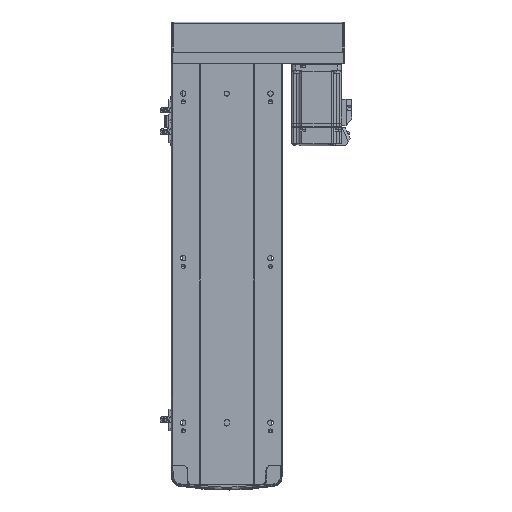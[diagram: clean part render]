
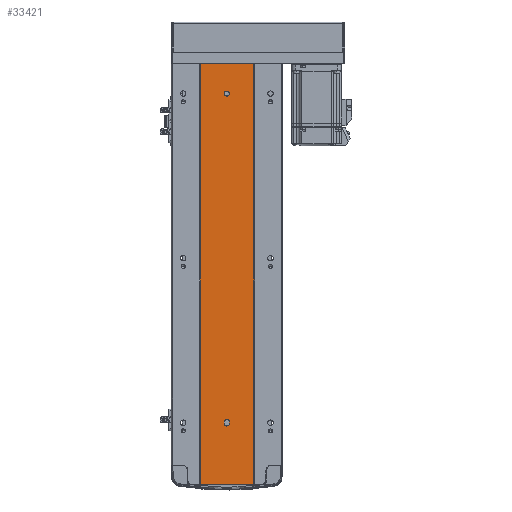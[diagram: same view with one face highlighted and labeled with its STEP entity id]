
A CAD part, top view. The second image highlights one B-rep face of the part: STEP entity #33421.
In plain terms, the highlighted planar face has unit normal (0, 0, 1).
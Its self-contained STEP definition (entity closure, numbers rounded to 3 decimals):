
#897 = DIRECTION ( 'NONE',  ( 1., 0., 0. ) ) ;
#1152 = AXIS2_PLACEMENT_3D ( 'NONE', #16984, #40257, #2928 ) ;
#1212 = DIRECTION ( 'NONE',  ( 0., -1., 0. ) ) ;
#1236 = VERTEX_POINT ( 'NONE', #11680 ) ;
#1993 = CARTESIAN_POINT ( 'NONE',  ( -32.5, -511.5, 35.45 ) ) ;
#2928 = DIRECTION ( 'NONE',  ( 1., 0., 0. ) ) ;
#3934 = VECTOR ( 'NONE', #1212, 1000. ) ;
#5575 = CARTESIAN_POINT ( 'NONE',  ( 3., -435.5, 35.45 ) ) ;
#6341 = VERTEX_POINT ( 'NONE', #40530 ) ;
#7977 = CARTESIAN_POINT ( 'NONE',  ( -3., -437.5, 35.45 ) ) ;
#9313 = VERTEX_POINT ( 'NONE', #31177 ) ;
#11680 = CARTESIAN_POINT ( 'NONE',  ( -3., -435.5, 35.45 ) ) ;
#11780 = ORIENTED_EDGE ( 'NONE', *, *, #59537, .F. ) ;
#12316 = VECTOR ( 'NONE', #12868, 1000. ) ;
#12447 = CARTESIAN_POINT ( 'NONE',  ( -32.5, -511.5, 35.45 ) ) ;
#12475 = VECTOR ( 'NONE', #15237, 1000. ) ;
#12763 = EDGE_LOOP ( 'NONE', ( #14627, #14966, #53370, #45395 ) ) ;
#12868 = DIRECTION ( 'NONE',  ( 1., 0., 0. ) ) ;
#13033 = AXIS2_PLACEMENT_3D ( 'NONE', #17348, #59692, #41385 ) ;
#14627 = ORIENTED_EDGE ( 'NONE', *, *, #35299, .F. ) ;
#14966 = ORIENTED_EDGE ( 'NONE', *, *, #48598, .F. ) ;
#15222 = EDGE_LOOP ( 'NONE', ( #47165, #30248, #34901, #35855 ) ) ;
#15237 = DIRECTION ( 'NONE',  ( 0., 1., 0. ) ) ;
#15944 = CARTESIAN_POINT ( 'NONE',  ( 3., -437.5, 35.45 ) ) ;
#16255 = PLANE ( 'NONE',  #33366 ) ;
#16984 = CARTESIAN_POINT ( 'NONE',  ( 0., -435.5, 35.45 ) ) ;
#17348 = CARTESIAN_POINT ( 'NONE',  ( 0., -36.5, 35.45 ) ) ;
#17753 = EDGE_CURVE ( 'NONE', #56163, #38258, #41831, .T. ) ;
#19800 = AXIS2_PLACEMENT_3D ( 'NONE', #29526, #43667, #38816 ) ;
#19852 = DIRECTION ( 'NONE',  ( 0., 1., 0. ) ) ;
#20599 = VECTOR ( 'NONE', #49740, 1000. ) ;
#23938 = VERTEX_POINT ( 'NONE', #33134 ) ;
#24535 = CARTESIAN_POINT ( 'NONE',  ( -32.5, -511.5, 35.45 ) ) ;
#24674 = CARTESIAN_POINT ( 'NONE',  ( -32.5, 0., 35.45 ) ) ;
#24789 = CARTESIAN_POINT ( 'NONE',  ( -3., -435.5, 35.45 ) ) ;
#25847 = LINE ( 'NONE', #5575, #55286 ) ;
#26450 = CARTESIAN_POINT ( 'NONE',  ( -3., -36.5, 35.45 ) ) ;
#28805 = EDGE_CURVE ( 'NONE', #1236, #56163, #29056, .T. ) ;
#29056 = LINE ( 'NONE', #24789, #3934 ) ;
#29526 = CARTESIAN_POINT ( 'NONE',  ( 0., -437.5, 35.45 ) ) ;
#30248 = ORIENTED_EDGE ( 'NONE', *, *, #35831, .F. ) ;
#31081 = CARTESIAN_POINT ( 'NONE',  ( 3., -36.5, 35.45 ) ) ;
#31177 = CARTESIAN_POINT ( 'NONE',  ( -32.5, 0., 35.45 ) ) ;
#32471 = CIRCLE ( 'NONE', #13033, 3. ) ;
#33134 = CARTESIAN_POINT ( 'NONE',  ( 3., -435.5, 35.45 ) ) ;
#33366 = AXIS2_PLACEMENT_3D ( 'NONE', #1993, #34825, #58218 ) ;
#33421 = ADVANCED_FACE ( 'NONE', ( #49607, #51132, #37973 ), #16255, .T. ) ;
#33686 = CARTESIAN_POINT ( 'NONE',  ( 0., -36.5, 35.45 ) ) ;
#34825 = DIRECTION ( 'NONE',  ( 0., 0., 1. ) ) ;
#34901 = ORIENTED_EDGE ( 'NONE', *, *, #17753, .F. ) ;
#35299 = EDGE_CURVE ( 'NONE', #9313, #45112, #54573, .T. ) ;
#35831 = EDGE_CURVE ( 'NONE', #38258, #23938, #25847, .T. ) ;
#35855 = ORIENTED_EDGE ( 'NONE', *, *, #28805, .F. ) ;
#37973 = FACE_OUTER_BOUND ( 'NONE', #12763, .T. ) ;
#38258 = VERTEX_POINT ( 'NONE', #15944 ) ;
#38397 = DIRECTION ( 'NONE',  ( 1., 0., 0. ) ) ;
#38816 = DIRECTION ( 'NONE',  ( 1., 0., 0. ) ) ;
#38825 = VERTEX_POINT ( 'NONE', #26450 ) ;
#39194 = EDGE_LOOP ( 'NONE', ( #11780, #40992 ) ) ;
#39210 = CARTESIAN_POINT ( 'NONE',  ( 32.5, 0., 35.45 ) ) ;
#39304 = EDGE_CURVE ( 'NONE', #23938, #1236, #55012, .T. ) ;
#40257 = DIRECTION ( 'NONE',  ( 0., 0., 1. ) ) ;
#40530 = CARTESIAN_POINT ( 'NONE',  ( -32.5, -511.5, 35.45 ) ) ;
#40992 = ORIENTED_EDGE ( 'NONE', *, *, #47002, .F. ) ;
#41385 = DIRECTION ( 'NONE',  ( 1., 0., 0. ) ) ;
#41831 = CIRCLE ( 'NONE', #19800, 3. ) ;
#42680 = LINE ( 'NONE', #24535, #12475 ) ;
#43076 = DIRECTION ( 'NONE',  ( 0., 0., 1. ) ) ;
#43667 = DIRECTION ( 'NONE',  ( 0., 0., 1. ) ) ;
#45112 = VERTEX_POINT ( 'NONE', #39210 ) ;
#45150 = CARTESIAN_POINT ( 'NONE',  ( 32.5, -511.5, 35.45 ) ) ;
#45395 = ORIENTED_EDGE ( 'NONE', *, *, #48693, .T. ) ;
#46509 = VECTOR ( 'NONE', #897, 1000. ) ;
#46564 = CIRCLE ( 'NONE', #51606, 3. ) ;
#46731 = VERTEX_POINT ( 'NONE', #45150 ) ;
#47002 = EDGE_CURVE ( 'NONE', #38825, #48700, #46564, .T. ) ;
#47165 = ORIENTED_EDGE ( 'NONE', *, *, #39304, .F. ) ;
#48598 = EDGE_CURVE ( 'NONE', #6341, #9313, #42680, .T. ) ;
#48693 = EDGE_CURVE ( 'NONE', #46731, #45112, #54455, .T. ) ;
#48700 = VERTEX_POINT ( 'NONE', #31081 ) ;
#49607 = FACE_BOUND ( 'NONE', #15222, .T. ) ;
#49740 = DIRECTION ( 'NONE',  ( 0., 1., 0. ) ) ;
#49859 = LINE ( 'NONE', #12447, #12316 ) ;
#50151 = EDGE_CURVE ( 'NONE', #6341, #46731, #49859, .T. ) ;
#51132 = FACE_BOUND ( 'NONE', #39194, .T. ) ;
#51606 = AXIS2_PLACEMENT_3D ( 'NONE', #33686, #43076, #38397 ) ;
#53370 = ORIENTED_EDGE ( 'NONE', *, *, #50151, .T. ) ;
#54455 = LINE ( 'NONE', #59218, #20599 ) ;
#54573 = LINE ( 'NONE', #24674, #46509 ) ;
#55012 = CIRCLE ( 'NONE', #1152, 3. ) ;
#55286 = VECTOR ( 'NONE', #19852, 1000. ) ;
#56163 = VERTEX_POINT ( 'NONE', #7977 ) ;
#58218 = DIRECTION ( 'NONE',  ( 1., 0., 0. ) ) ;
#59218 = CARTESIAN_POINT ( 'NONE',  ( 32.5, -511.5, 35.45 ) ) ;
#59537 = EDGE_CURVE ( 'NONE', #48700, #38825, #32471, .T. ) ;
#59692 = DIRECTION ( 'NONE',  ( 0., 0., 1. ) ) ;
